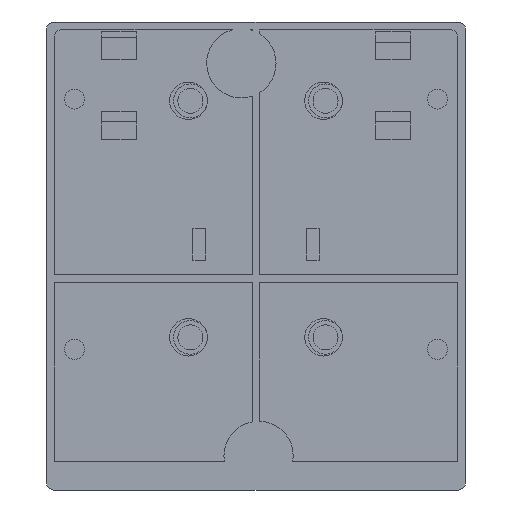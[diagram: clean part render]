
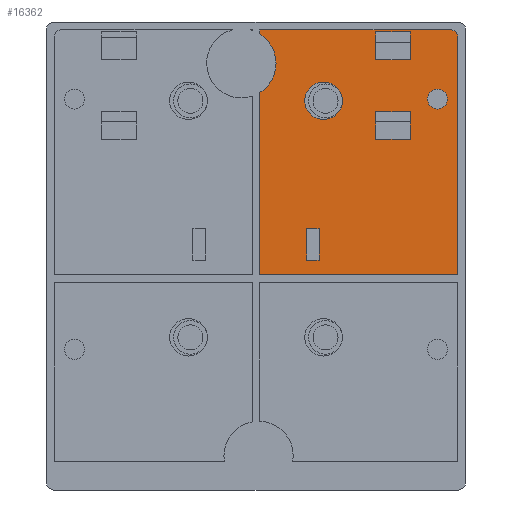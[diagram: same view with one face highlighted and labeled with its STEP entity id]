
A CAD part, front view. The second image highlights one B-rep face of the part: STEP entity #16362.
In plain terms, the highlighted planar face has unit normal (0, -1, 0).
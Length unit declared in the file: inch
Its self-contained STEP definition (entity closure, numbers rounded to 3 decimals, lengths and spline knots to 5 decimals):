
#1091=FACE_BOUND('',#2734,.T.);
#1092=FACE_BOUND('',#2735,.T.);
#1093=FACE_BOUND('',#2736,.T.);
#1094=FACE_BOUND('',#2737,.T.);
#1095=FACE_BOUND('',#2738,.T.);
#1204=CIRCLE('',#17493,0.06);
#1207=CIRCLE('',#17524,0.15);
#1213=CIRCLE('',#17536,0.277);
#1215=CIRCLE('',#17542,0.08);
#1758=FACE_OUTER_BOUND('',#2733,.T.);
#2733=EDGE_LOOP('',(#11112,#11113,#11114,#11115,#11116,#11117,#11118));
#2734=EDGE_LOOP('',(#11119,#11120,#11121,#11122));
#2735=EDGE_LOOP('',(#11123,#11124,#11125,#11126));
#2736=EDGE_LOOP('',(#11127,#11128,#11129,#11130));
#2737=EDGE_LOOP('',(#11131));
#2738=EDGE_LOOP('',(#11132));
#3796=LINE('',#22656,#5321);
#3801=LINE('',#22670,#5326);
#3803=LINE('',#22674,#5328);
#3805=LINE('',#22678,#5330);
#3807=LINE('',#22681,#5332);
#3809=LINE('',#22686,#5334);
#3812=LINE('',#22691,#5337);
#3814=LINE('',#22695,#5339);
#3815=LINE('',#22697,#5340);
#3825=LINE('',#22718,#5350);
#3828=LINE('',#22723,#5353);
#3830=LINE('',#22727,#5355);
#3831=LINE('',#22729,#5356);
#3866=LINE('',#22816,#5391);
#3867=LINE('',#22817,#5392);
#3868=LINE('',#22819,#5393);
#3869=LINE('',#22820,#5394);
#5321=VECTOR('',#18760,0.3937);
#5326=VECTOR('',#18775,0.3937);
#5328=VECTOR('',#18779,0.3937);
#5330=VECTOR('',#18783,0.3937);
#5332=VECTOR('',#18787,0.3937);
#5334=VECTOR('',#18791,0.3937);
#5337=VECTOR('',#18796,0.3937);
#5339=VECTOR('',#18800,0.3937);
#5340=VECTOR('',#18803,0.3937);
#5350=VECTOR('',#18823,0.3937);
#5353=VECTOR('',#18828,0.3937);
#5355=VECTOR('',#18832,0.3937);
#5356=VECTOR('',#18835,0.3937);
#5391=VECTOR('',#18924,0.3937);
#5392=VECTOR('',#18925,0.3937);
#5393=VECTOR('',#18926,0.3937);
#5394=VECTOR('',#18927,0.3937);
#6858=VERTEX_POINT('',#22649);
#6859=VERTEX_POINT('',#22650);
#6860=VERTEX_POINT('',#22655);
#6863=VERTEX_POINT('',#22667);
#6864=VERTEX_POINT('',#22669);
#6865=VERTEX_POINT('',#22673);
#6866=VERTEX_POINT('',#22677);
#6867=VERTEX_POINT('',#22683);
#6868=VERTEX_POINT('',#22685);
#6869=VERTEX_POINT('',#22689);
#6870=VERTEX_POINT('',#22693);
#6875=VERTEX_POINT('',#22715);
#6876=VERTEX_POINT('',#22717);
#6877=VERTEX_POINT('',#22721);
#6878=VERTEX_POINT('',#22725);
#6887=VERTEX_POINT('',#22763);
#6896=VERTEX_POINT('',#22793);
#6897=VERTEX_POINT('',#22795);
#6903=VERTEX_POINT('',#22815);
#6904=VERTEX_POINT('',#22818);
#6905=VERTEX_POINT('',#22821);
#8470=EDGE_CURVE('',#6858,#6859,#1204,.T.);
#8473=EDGE_CURVE('',#6858,#6860,#3796,.F.);
#8480=EDGE_CURVE('',#6864,#6863,#3801,.T.);
#8482=EDGE_CURVE('',#6865,#6864,#3803,.T.);
#8484=EDGE_CURVE('',#6866,#6865,#3805,.T.);
#8486=EDGE_CURVE('',#6863,#6866,#3807,.T.);
#8488=EDGE_CURVE('',#6868,#6867,#3809,.T.);
#8491=EDGE_CURVE('',#6867,#6869,#3812,.T.);
#8493=EDGE_CURVE('',#6869,#6870,#3814,.T.);
#8494=EDGE_CURVE('',#6870,#6868,#3815,.T.);
#8504=EDGE_CURVE('',#6876,#6875,#3825,.T.);
#8507=EDGE_CURVE('',#6875,#6877,#3828,.T.);
#8509=EDGE_CURVE('',#6877,#6878,#3830,.T.);
#8510=EDGE_CURVE('',#6878,#6876,#3831,.T.);
#8527=EDGE_CURVE('',#6887,#6887,#1207,.T.);
#8544=EDGE_CURVE('',#6896,#6897,#1213,.T.);
#8553=EDGE_CURVE('',#6903,#6859,#3866,.F.);
#8554=EDGE_CURVE('',#6903,#6896,#3867,.T.);
#8555=EDGE_CURVE('',#6897,#6904,#3868,.T.);
#8556=EDGE_CURVE('',#6904,#6860,#3869,.T.);
#8557=EDGE_CURVE('',#6905,#6905,#1215,.T.);
#11112=ORIENTED_EDGE('',*,*,#8470,.T.);
#11113=ORIENTED_EDGE('',*,*,#8553,.F.);
#11114=ORIENTED_EDGE('',*,*,#8554,.T.);
#11115=ORIENTED_EDGE('',*,*,#8544,.T.);
#11116=ORIENTED_EDGE('',*,*,#8555,.T.);
#11117=ORIENTED_EDGE('',*,*,#8556,.T.);
#11118=ORIENTED_EDGE('',*,*,#8473,.F.);
#11119=ORIENTED_EDGE('',*,*,#8480,.T.);
#11120=ORIENTED_EDGE('',*,*,#8486,.T.);
#11121=ORIENTED_EDGE('',*,*,#8484,.T.);
#11122=ORIENTED_EDGE('',*,*,#8482,.T.);
#11123=ORIENTED_EDGE('',*,*,#8488,.T.);
#11124=ORIENTED_EDGE('',*,*,#8491,.T.);
#11125=ORIENTED_EDGE('',*,*,#8493,.T.);
#11126=ORIENTED_EDGE('',*,*,#8494,.T.);
#11127=ORIENTED_EDGE('',*,*,#8504,.T.);
#11128=ORIENTED_EDGE('',*,*,#8507,.T.);
#11129=ORIENTED_EDGE('',*,*,#8509,.T.);
#11130=ORIENTED_EDGE('',*,*,#8510,.T.);
#11131=ORIENTED_EDGE('',*,*,#8527,.T.);
#11132=ORIENTED_EDGE('',*,*,#8557,.T.);
#15831=PLANE('',#17541);
#16362=ADVANCED_FACE('',(#1758,#1091,#1092,#1093,#1094,#1095),#15831,.F.);
#17493=AXIS2_PLACEMENT_3D('',#22651,#18754,#18755);
#17524=AXIS2_PLACEMENT_3D('',#22764,#18870,#18871);
#17536=AXIS2_PLACEMENT_3D('',#22797,#18905,#18906);
#17541=AXIS2_PLACEMENT_3D('',#22814,#18922,#18923);
#17542=AXIS2_PLACEMENT_3D('',#22822,#18928,#18929);
#18754=DIRECTION('center_axis',(0.,-1.,0.));
#18755=DIRECTION('ref_axis',(0.707,0.,0.707));
#18760=DIRECTION('',(0.,0.,1.));
#18775=DIRECTION('',(0.,0.,1.));
#18779=DIRECTION('',(-1.,0.,0.));
#18783=DIRECTION('',(0.,0.,-1.));
#18787=DIRECTION('',(1.,0.,0.));
#18791=DIRECTION('',(1.,0.,0.));
#18796=DIRECTION('',(0.,0.,-1.));
#18800=DIRECTION('',(-1.,0.,0.));
#18803=DIRECTION('',(0.,0.,1.));
#18823=DIRECTION('',(0.,0.,1.));
#18828=DIRECTION('',(1.,0.,0.));
#18832=DIRECTION('',(0.,0.,-1.));
#18835=DIRECTION('',(-1.,0.,0.));
#18870=DIRECTION('center_axis',(0.,1.,0.));
#18871=DIRECTION('ref_axis',(-1.,0.,0.));
#18905=DIRECTION('center_axis',(0.,1.,0.));
#18906=DIRECTION('ref_axis',(-1.,0.,0.));
#18922=DIRECTION('center_axis',(0.,1.,0.));
#18923=DIRECTION('ref_axis',(0.,0.,1.));
#18924=DIRECTION('',(-1.,0.,0.));
#18925=DIRECTION('',(0.,0.,-1.));
#18926=DIRECTION('',(0.,0.,-1.));
#18927=DIRECTION('',(1.,0.,0.));
#18928=DIRECTION('center_axis',(0.,1.,0.));
#18929=DIRECTION('ref_axis',(-1.,0.,0.));
#22649=CARTESIAN_POINT('',(1.6125,0.2175,2.3025));
#22650=CARTESIAN_POINT('',(1.5525,0.2175,2.3625));
#22651=CARTESIAN_POINT('Origin',(1.5525,0.2175,2.3025));
#22655=CARTESIAN_POINT('',(1.6125,0.2175,0.40414));
#22656=CARTESIAN_POINT('',(1.6125,0.2175,1.2125));
#22667=CARTESIAN_POINT('',(0.9575,0.2175,1.70864));
#22669=CARTESIAN_POINT('',(0.9575,0.2175,1.48664));
#22670=CARTESIAN_POINT('',(0.9575,0.2175,0.74332));
#22673=CARTESIAN_POINT('',(1.2325,0.2175,1.48664));
#22674=CARTESIAN_POINT('',(0.61625,0.2175,1.48664));
#22677=CARTESIAN_POINT('',(1.2325,0.2175,1.70864));
#22678=CARTESIAN_POINT('',(1.2325,0.2175,0.85432));
#22681=CARTESIAN_POINT('',(0.47875,0.2175,1.70864));
#22683=CARTESIAN_POINT('',(1.2325,0.2175,2.34564));
#22685=CARTESIAN_POINT('',(0.9575,0.2175,2.34564));
#22686=CARTESIAN_POINT('',(0.47875,0.2175,2.34564));
#22689=CARTESIAN_POINT('',(1.2325,0.2175,2.12364));
#22691=CARTESIAN_POINT('',(1.2325,0.2175,1.17282));
#22693=CARTESIAN_POINT('',(0.9575,0.2175,2.12364));
#22695=CARTESIAN_POINT('',(0.61625,0.2175,2.12364));
#22697=CARTESIAN_POINT('',(0.9575,0.2175,1.06182));
#22715=CARTESIAN_POINT('',(0.404,0.2175,0.77264));
#22717=CARTESIAN_POINT('',(0.404,0.2175,0.52264));
#22718=CARTESIAN_POINT('',(0.404,0.2175,0.26132));
#22721=CARTESIAN_POINT('',(0.504,0.2175,0.77264));
#22723=CARTESIAN_POINT('',(0.202,0.2175,0.77264));
#22725=CARTESIAN_POINT('',(0.504,0.2175,0.52264));
#22727=CARTESIAN_POINT('',(0.504,0.2175,0.38632));
#22729=CARTESIAN_POINT('',(0.252,0.2175,0.52264));
#22763=CARTESIAN_POINT('',(0.69,0.2175,1.7955));
#22764=CARTESIAN_POINT('Origin',(0.54,0.2175,1.7955));
#22793=CARTESIAN_POINT('',(0.02875,0.2175,2.33055));
#22795=CARTESIAN_POINT('',(0.02875,0.2175,1.85945));
#22797=CARTESIAN_POINT('Origin',(-0.117,0.2175,2.095));
#22814=CARTESIAN_POINT('Origin',(0.,0.2175,0.));
#22815=CARTESIAN_POINT('',(0.02875,0.2175,2.3625));
#22816=CARTESIAN_POINT('',(-0.8375,0.2175,2.3625));
#22817=CARTESIAN_POINT('',(0.02875,0.2175,0.20207));
#22818=CARTESIAN_POINT('',(0.02875,0.2175,0.40414));
#22819=CARTESIAN_POINT('',(0.02875,0.2175,0.20207));
#22820=CARTESIAN_POINT('',(0.80625,0.2175,0.40414));
#22821=CARTESIAN_POINT('',(1.53,0.2175,1.809));
#22822=CARTESIAN_POINT('Origin',(1.45,0.2175,1.809));
